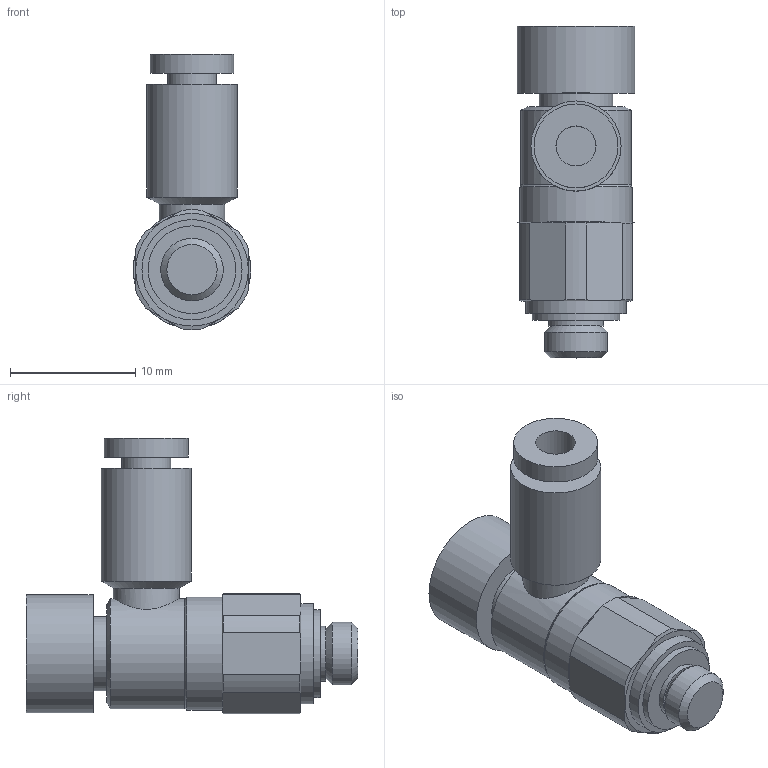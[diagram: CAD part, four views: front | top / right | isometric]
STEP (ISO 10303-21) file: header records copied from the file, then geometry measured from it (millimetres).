
FILE_DESCRIPTION(/* description */ ('STEP AP214'),/* implementation_level */ '2;1');
FILE_NAME(/* name */ 'AS1201F-M5-23A',/* time_stamp */ '2024-10-24T14:03:49+02:00',/* author */ ('License CC BY-ND 4.0'),/* organization */ ('CADENAS'),/* preprocessor_version */ 'ST-DEVELOPER v19.3',/* originating_system */ 'PARTsolutions',/* authorisation */ ' ');
FILE_SCHEMA (('AUTOMOTIVE_DESIGN {1 0 10303 214 3 1 1}'));
Length unit declared in the file: millimetre
Products named in the file (1): AS1201F-M5-23A
Bounding box: 9.4 x 26.5 x 21.99 mm (x, y, z)
Volume: 1884.9 mm3; surface area: 1415 mm2
Topology: 1 solids, 1 shells, 56 faces, 118 edges, 75 vertices
Faces by surface type: plane 25, cylinder 19, cone 12
Full cylindrical faces by diameter (mm): 3.2 x1, 3.9 x1, 4.4 x1, 5 x1, 5.25 x1, 5.9 x1, 6.7 x1, 7 x1, 7.2 x1, 8 x1, 8.8 x1, 9 x1, 9.4 x1
Entity records: 1455 total; most frequent: CARTESIAN_POINT 315, DIRECTION 238, ORIENTED_EDGE 192, AXIS2_PLACEMENT_3D 110, EDGE_CURVE 96, EDGE_LOOP 86, FACE_BOUND 86, VERTEX_POINT 72
